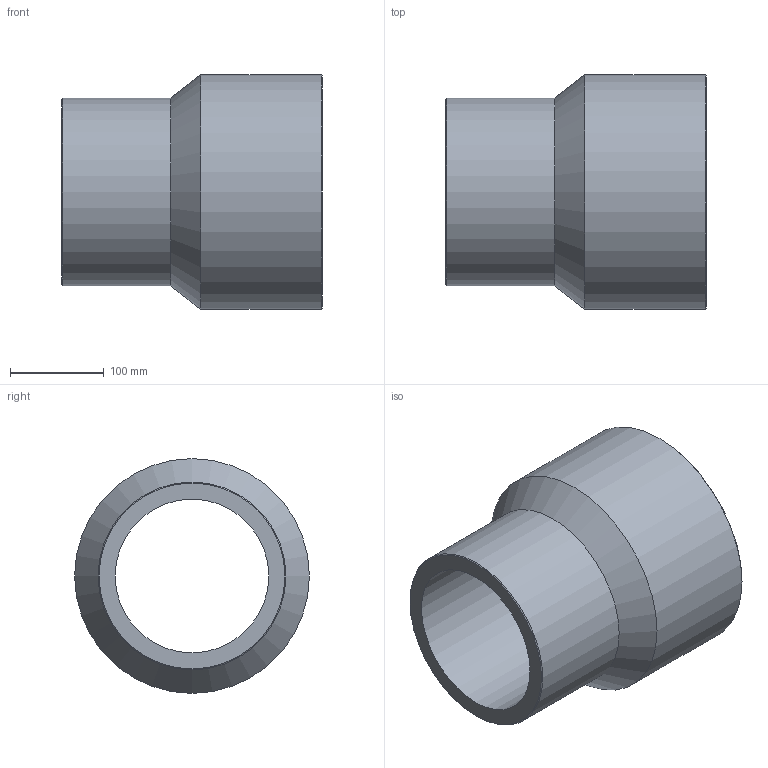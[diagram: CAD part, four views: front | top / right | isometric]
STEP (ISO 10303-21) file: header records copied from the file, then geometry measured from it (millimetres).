
FILE_DESCRIPTION(/* description */ ('Unknown'),/* implementation_level */ '2;1');
FILE_NAME(/* name */ 'RP250200C',/* time_stamp */ '2021-09-17T15:27:35+02:00',/* author */ ('Unknown'),/* organization */ ('Unknown'),/* preprocessor_version */ 'ST-DEVELOPER v16.7',/* originating_system */ 'Solid Edge',/* authorisation */ 'Unknown');
FILE_SCHEMA (('AUTOMOTIVE_DESIGN {1 0 10303 214 3 1 1}'));
Length unit declared in the file: millimetre
Products named in the file (1): RP250200C
Bounding box: 277 x 250 x 250 mm (x, y, z)
Volume: 3854072.5 mm3; surface area: 392010.3 mm2
Topology: 1 solids, 1 shells, 10 faces, 19 edges, 11 vertices
Faces by surface type: cylinder 4, cone 4, plane 2
Full cylindrical faces by diameter (mm): 163.6 x1, 200 x1, 204.6 x1, 250 x1
Entity records: 238 total; most frequent: DIRECTION 42, CARTESIAN_POINT 31, AXIS2_PLACEMENT_3D 21, ORIENTED_EDGE 20, EDGE_LOOP 20, FACE_BOUND 20, EDGE_CURVE 10, VERTEX_POINT 10
